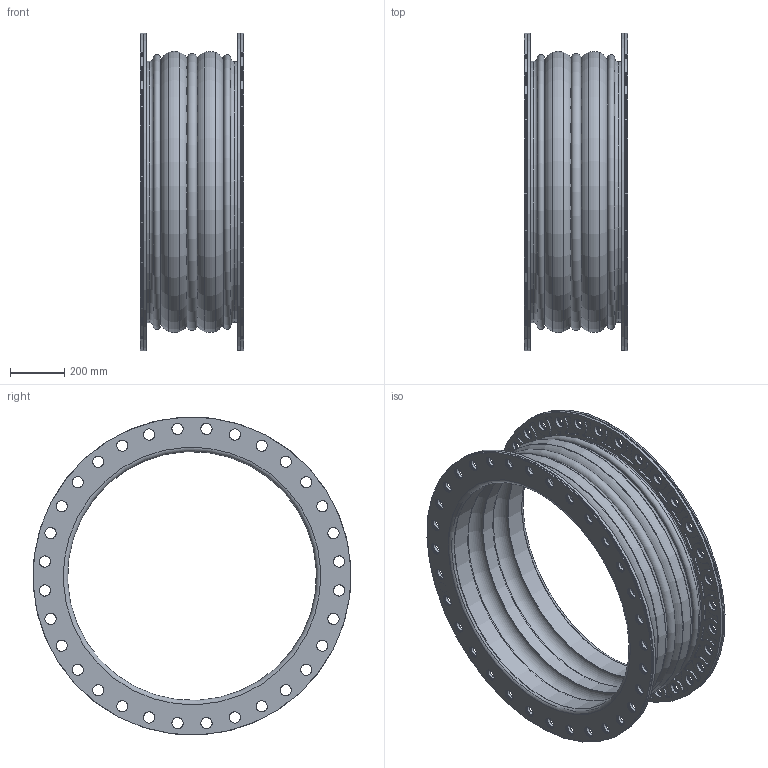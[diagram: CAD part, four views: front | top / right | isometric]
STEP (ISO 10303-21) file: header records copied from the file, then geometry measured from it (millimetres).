
FILE_DESCRIPTION((''),'2;1');
FILE_NAME('C:\2011_Work\Designs\Mercer\Stock Joints\450 Style\452\STEP\Style452 36x15.stp','2013-07-26T17:35:29',('mquog'),(''),'Autodesk Inventor 2011','Autodesk Inventor 2011','');
FILE_SCHEMA(('AUTOMOTIVE_DESIGN { 1 0 10303 214 1 1 1 1 }'));
Length unit declared in the file: inch
Products named in the file (4): Style452 36x15; 36DI450BUR150; 36_MBR; 452 36x15
Assembly tree (4 placements, depth 2):
  Style452 36x15
    36DI450BUR150  x2
    36_MBR
    452 36x15
Bounding box: 381 x 1167.77 x 1167.77 mm (x, y, z)
Volume: 46966394.6 mm3; surface area: 31732056.6 mm2
Topology: 36 solids, 36 shells, 1388 faces, 3668 edges, 2414 vertices
Faces by surface type: cylinder 1151, plane 134, torus 103
Full cylindrical faces by diameter (mm): 41.275 x449, 914.4 x3, 920.75 x6, 927.1 x12, 930.961 x6, 934.822 x6, 937.997 x3, 941.388 x2, 946.15 x6, 960.438 x2, 1162.05 x12, 1168.4 x4
Entity records: 30598 total; most frequent: DIRECTION 5720, CARTESIAN_POINT 4718, ORIENTED_EDGE 4038, AXIS2_PLACEMENT_3D 2700, EDGE_LOOP 2499, EDGE_CURVE 2019, CIRCLE 1699, VERTEX_POINT 1698
